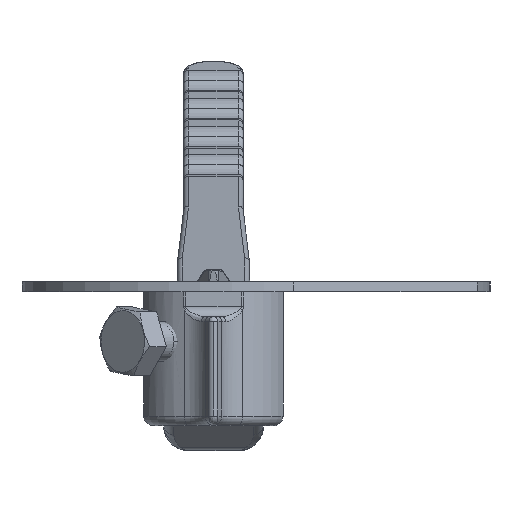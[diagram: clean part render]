
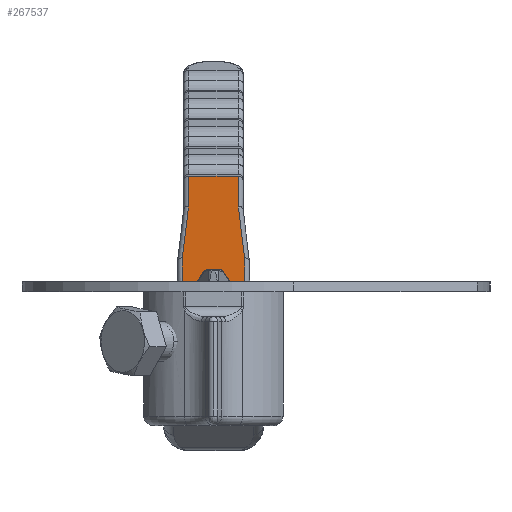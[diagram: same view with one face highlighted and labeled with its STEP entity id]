
A CAD part, front view. The second image highlights one B-rep face of the part: STEP entity #267537.
In plain terms, the highlighted planar face has unit normal (0, -0.282, 0.959) as drawn and (-0.259, 0.966, 0) by its records, which use the part's own axes.
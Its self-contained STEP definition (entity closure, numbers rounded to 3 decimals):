
#11049 = VECTOR ( 'NONE', #100715, 1000. ) ;
#12584 = ORIENTED_EDGE ( 'NONE', *, *, #127714, .T. ) ;
#18911 = VERTEX_POINT ( 'NONE', #192360 ) ;
#19997 = DIRECTION ( 'NONE',  ( 0.259, -0.966, 0. ) ) ;
#20977 = PLANE ( 'NONE',  #286699 ) ;
#25346 = LINE ( 'NONE', #292645, #220859 ) ;
#26066 = VECTOR ( 'NONE', #44549, 1000. ) ;
#37442 = CARTESIAN_POINT ( 'NONE',  ( 71.194, 27.876, 5. ) ) ;
#44498 = EDGE_CURVE ( 'NONE', #18911, #267479, #180307, .T. ) ;
#44549 = DIRECTION ( 'NONE',  ( -0.965, -0.259, -0.034 ) ) ;
#55574 = VERTEX_POINT ( 'NONE', #181339 ) ;
#68604 = CARTESIAN_POINT ( 'NONE',  ( 171.667, 54.798, 7.25 ) ) ;
#74520 = CARTESIAN_POINT ( 'NONE',  ( 91.74, 33.382, 7.25 ) ) ;
#75199 = ORIENTED_EDGE ( 'NONE', *, *, #192930, .T. ) ;
#77660 = EDGE_CURVE ( 'NONE', #248509, #191899, #206115, .T. ) ;
#84856 = VERTEX_POINT ( 'NONE', #115055 ) ;
#85954 = CARTESIAN_POINT ( 'NONE',  ( 35.551, 18.326, 6.25 ) ) ;
#87034 = DIRECTION ( 'NONE',  ( 0., 0., -1. ) ) ;
#100715 = DIRECTION ( 'NONE',  ( 0.965, 0.259, -0.034 ) ) ;
#103318 = DIRECTION ( 'NONE',  ( 0.966, 0.259, 0. ) ) ;
#115055 = CARTESIAN_POINT ( 'NONE',  ( 71.194, 27.876, -5. ) ) ;
#116439 = VECTOR ( 'NONE', #157869, 1000. ) ;
#117062 = ORIENTED_EDGE ( 'NONE', *, *, #44498, .T. ) ;
#118026 = ORIENTED_EDGE ( 'NONE', *, *, #252687, .T. ) ;
#126154 = CARTESIAN_POINT ( 'NONE',  ( 171.667, 54.798, 5. ) ) ;
#127714 = EDGE_CURVE ( 'NONE', #191899, #55574, #263810, .T. ) ;
#136152 = CARTESIAN_POINT ( 'NONE',  ( 35.568, 18.33, 6.25 ) ) ;
#141084 = VERTEX_POINT ( 'NONE', #85954 ) ;
#142193 = LINE ( 'NONE', #136152, #284459 ) ;
#146152 = LINE ( 'NONE', #213941, #11049 ) ;
#147281 = ORIENTED_EDGE ( 'NONE', *, *, #77660, .T. ) ;
#150347 = LINE ( 'NONE', #158753, #26066 ) ;
#153282 = EDGE_CURVE ( 'NONE', #55574, #84856, #291750, .T. ) ;
#157869 = DIRECTION ( 'NONE',  ( -0.966, -0.259, 0. ) ) ;
#158753 = CARTESIAN_POINT ( 'NONE',  ( 35.535, 18.321, -6.251 ) ) ;
#166014 = DIRECTION ( 'NONE',  ( -0.966, -0.259, 0. ) ) ;
#178909 = CARTESIAN_POINT ( 'NONE',  ( 11.547, 11.894, -6.25 ) ) ;
#180307 = LINE ( 'NONE', #271117, #116439 ) ;
#181339 = CARTESIAN_POINT ( 'NONE',  ( 91.74, 33.382, -5. ) ) ;
#181425 = VECTOR ( 'NONE', #166014, 1000. ) ;
#191899 = VERTEX_POINT ( 'NONE', #273956 ) ;
#192360 = CARTESIAN_POINT ( 'NONE',  ( 35.551, 18.326, -6.25 ) ) ;
#192930 = EDGE_CURVE ( 'NONE', #84856, #18911, #150347, .T. ) ;
#195477 = FACE_OUTER_BOUND ( 'NONE', #216050, .T. ) ;
#206115 = LINE ( 'NONE', #126154, #216649 ) ;
#212135 = ORIENTED_EDGE ( 'NONE', *, *, #265848, .T. ) ;
#213083 = ORIENTED_EDGE ( 'NONE', *, *, #153282, .T. ) ;
#213941 = CARTESIAN_POINT ( 'NONE',  ( 171.478, 54.747, 1.483 ) ) ;
#216050 = EDGE_LOOP ( 'NONE', ( #75199, #117062, #263206, #212135, #118026, #147281, #12584, #213083 ) ) ;
#216649 = VECTOR ( 'NONE', #103318, 1000. ) ;
#220859 = VECTOR ( 'NONE', #87034, 1000. ) ;
#224582 = DIRECTION ( 'NONE',  ( 0.966, 0.259, 0. ) ) ;
#225217 = CARTESIAN_POINT ( 'NONE',  ( 11.547, 11.894, 6.25 ) ) ;
#233451 = DIRECTION ( 'NONE',  ( 0., 0., -1. ) ) ;
#248509 = VERTEX_POINT ( 'NONE', #37442 ) ;
#249883 = EDGE_CURVE ( 'NONE', #278031, #267479, #25346, .T. ) ;
#252687 = EDGE_CURVE ( 'NONE', #141084, #248509, #146152, .T. ) ;
#263206 = ORIENTED_EDGE ( 'NONE', *, *, #249883, .F. ) ;
#263810 = LINE ( 'NONE', #74520, #267498 ) ;
#265848 = EDGE_CURVE ( 'NONE', #278031, #141084, #142193, .T. ) ;
#267479 = VERTEX_POINT ( 'NONE', #178909 ) ;
#267498 = VECTOR ( 'NONE', #233451, 1000. ) ;
#267537 = ADVANCED_FACE ( 'NONE', ( #195477 ), #20977, .F. ) ;
#271117 = CARTESIAN_POINT ( 'NONE',  ( 171.667, 54.798, -6.25 ) ) ;
#273956 = CARTESIAN_POINT ( 'NONE',  ( 91.74, 33.382, 5. ) ) ;
#276155 = DIRECTION ( 'NONE',  ( 0.966, 0.259, 0. ) ) ;
#278031 = VERTEX_POINT ( 'NONE', #225217 ) ;
#280249 = CARTESIAN_POINT ( 'NONE',  ( 71.21, 27.881, -5. ) ) ;
#284459 = VECTOR ( 'NONE', #224582, 1000. ) ;
#286699 = AXIS2_PLACEMENT_3D ( 'NONE', #68604, #19997, #276155 ) ;
#291750 = LINE ( 'NONE', #280249, #181425 ) ;
#292645 = CARTESIAN_POINT ( 'NONE',  ( 11.547, 11.894, 7.25 ) ) ;
